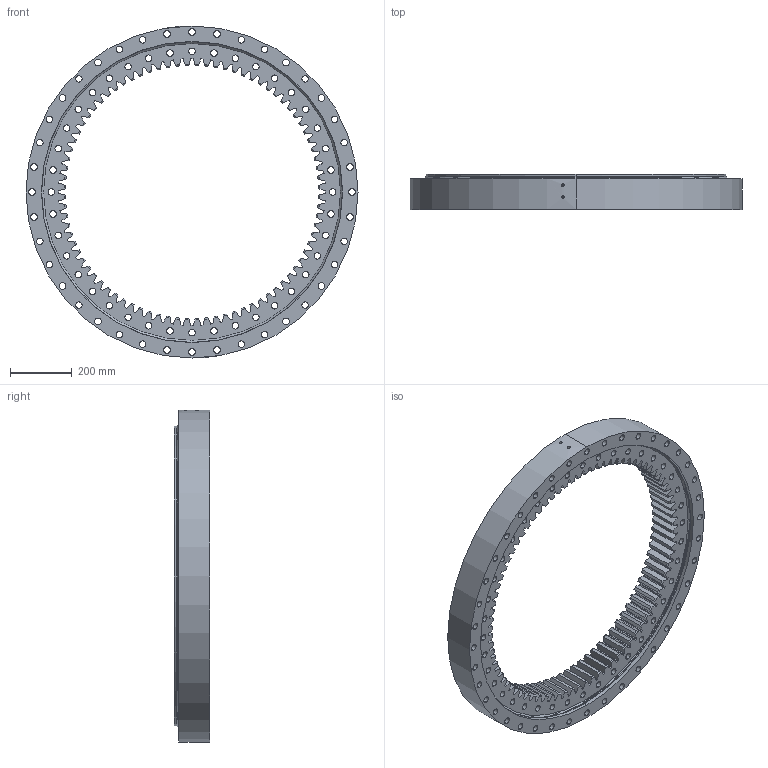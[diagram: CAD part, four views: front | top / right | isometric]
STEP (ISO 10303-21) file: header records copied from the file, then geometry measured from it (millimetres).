
FILE_DESCRIPTION (( 'STEP AP214' ), '1' );
FILE_NAME ('B2225-1-1074AA.STEP', '2022-11-24T07:05:52', ( '' ), ( '' ), 'SwSTEP 2.0', 'SolidWorks 2020', '' );
FILE_SCHEMA (( 'AUTOMOTIVE_DESIGN' ));
Length unit declared in the file: millimetre
Products named in the file (1): B2225-1-1074AA
Bounding box: 1074 x 114 x 1074 mm (x, y, z)
Volume: 31325210.4 mm3; surface area: 2868962.9 mm2
Topology: 4 solids, 4 shells, 818 faces, 2390 edges, 1592 vertices
Faces by surface type: plane 356, cylinder 286, cone 176
Entity records: 28707 total; most frequent: CARTESIAN_POINT 6753, ORIENTED_EDGE 4780, DIRECTION 4312, EDGE_CURVE 2390, VERTEX_POINT 1592, AXIS2_PLACEMENT_3D 1547, VECTOR 1218, LINE 1218
